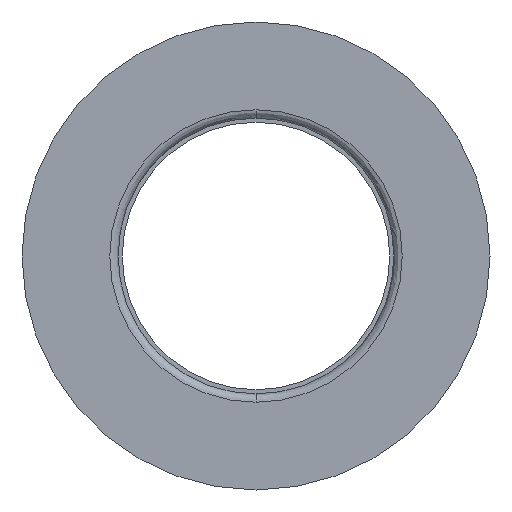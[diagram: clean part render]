
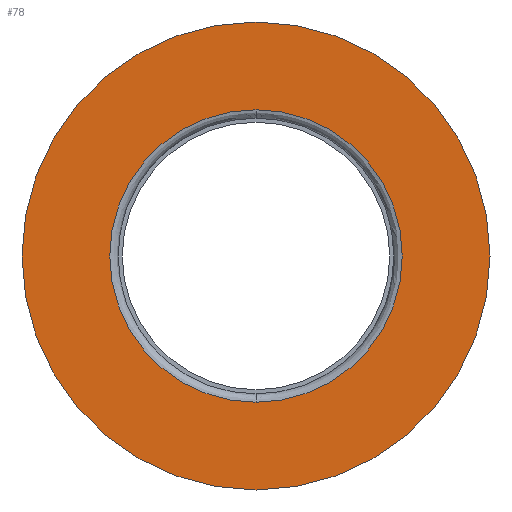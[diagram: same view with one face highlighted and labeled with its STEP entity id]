
A CAD part, left-side view. The second image highlights one B-rep face of the part: STEP entity #78.
In plain terms, the highlighted free-form (B-spline) face has degree [1, 1] with [2, 2] control points.
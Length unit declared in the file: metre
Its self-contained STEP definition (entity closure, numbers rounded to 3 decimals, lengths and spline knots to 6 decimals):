
#78 = ADVANCED_FACE( '', ( #105, #106 ), #107, .T. );
#105 = FACE_BOUND( '', #160, .T. );
#106 = FACE_OUTER_BOUND( '', #161, .T. );
#107 = B_SPLINE_SURFACE_WITH_KNOTS( '', 1, 1, ( ( #162, #163 ), ( #164, #165 ) ), .UNSPECIFIED., .F., .F., .F., ( 2, 2 ), ( 2, 2 ), ( 0., 1. ), ( 0., 1. ), .UNSPECIFIED. );
#160 = EDGE_LOOP( '', ( #339, #340 ) );
#161 = EDGE_LOOP( '', ( #341, #342 ) );
#162 = CARTESIAN_POINT( '', ( -0.05, -0.014168, -0.014168 ) );
#163 = CARTESIAN_POINT( '', ( -0.05, 0.014168, -0.014168 ) );
#164 = CARTESIAN_POINT( '', ( -0.05, -0.014168, 0.014168 ) );
#165 = CARTESIAN_POINT( '', ( -0.05, 0.014168, 0.014168 ) );
#339 = ORIENTED_EDGE( '', *, *, #487, .T. );
#340 = ORIENTED_EDGE( '', *, *, #488, .T. );
#341 = ORIENTED_EDGE( '', *, *, #489, .T. );
#342 = ORIENTED_EDGE( '', *, *, #490, .T. );
#487 = EDGE_CURVE( '', #539, #540, #541, .F. );
#488 = EDGE_CURVE( '', #540, #539, #542, .F. );
#489 = EDGE_CURVE( '', #543, #544, #545, .F. );
#490 = EDGE_CURVE( '', #544, #543, #546, .F. );
#539 = VERTEX_POINT( '', #619 );
#540 = VERTEX_POINT( '', #620 );
#541 = CIRCLE( '', #621, 0.00875 );
#542 = CIRCLE( '', #622, 0.00875 );
#543 = VERTEX_POINT( '', #623 );
#544 = VERTEX_POINT( '', #624 );
#545 = CIRCLE( '', #625, 0.014 );
#546 = CIRCLE( '', #626, 0.014 );
#619 = CARTESIAN_POINT( '', ( -0.05, 0., -0.00875 ) );
#620 = CARTESIAN_POINT( '', ( -0.05, 0., 0.00875 ) );
#621 = AXIS2_PLACEMENT_3D( '', #749, #750, #751 );
#622 = AXIS2_PLACEMENT_3D( '', #752, #753, #754 );
#623 = CARTESIAN_POINT( '', ( -0.05, 0., 0.014 ) );
#624 = CARTESIAN_POINT( '', ( -0.05, 0., -0.014 ) );
#625 = AXIS2_PLACEMENT_3D( '', #755, #756, #757 );
#626 = AXIS2_PLACEMENT_3D( '', #758, #759, #760 );
#749 = CARTESIAN_POINT( '', ( -0.05, 0., 0. ) );
#750 = DIRECTION( '', ( -1., 0., 0. ) );
#751 = DIRECTION( '', ( 0., -1., 0. ) );
#752 = CARTESIAN_POINT( '', ( -0.05, 0., 0. ) );
#753 = DIRECTION( '', ( -1., 0., 0. ) );
#754 = DIRECTION( '', ( 0., -1., 0. ) );
#755 = CARTESIAN_POINT( '', ( -0.05, 0., 0. ) );
#756 = DIRECTION( '', ( 1., 0., 0. ) );
#757 = DIRECTION( '', ( 0., 0., -1. ) );
#758 = CARTESIAN_POINT( '', ( -0.05, 0., 0. ) );
#759 = DIRECTION( '', ( 1., 0., 0. ) );
#760 = DIRECTION( '', ( 0., 0., -1. ) );
